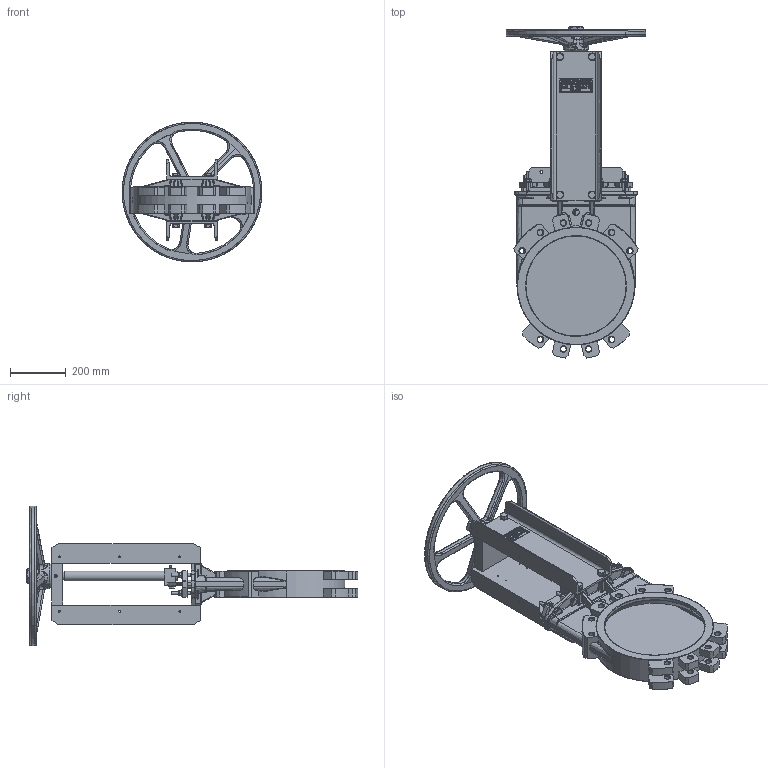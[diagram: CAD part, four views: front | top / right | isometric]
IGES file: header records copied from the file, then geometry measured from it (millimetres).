
Start section: SolidWorks IGES file using analytic representation for surfaces
Global section: file name: H:\BE TECOFI\BE AA\Demande rapide\20240710\VG6400-001EP0350.IGS; native system: SolidWorks 2020; preprocessor: SolidWorks 2020; author: a.aimard; date: 240724.154622; units: millimetre
Bounding box: 499.92 x 1186.68 x 499.92 mm (x, y, z)
Surface area: 2261063.1 mm2 (no closed solid volume)
Topology: 0 solids, 0 shells, 1547 faces, 37037 edges, 37014 vertices
Faces by surface type: bspline 892, revolution 655
